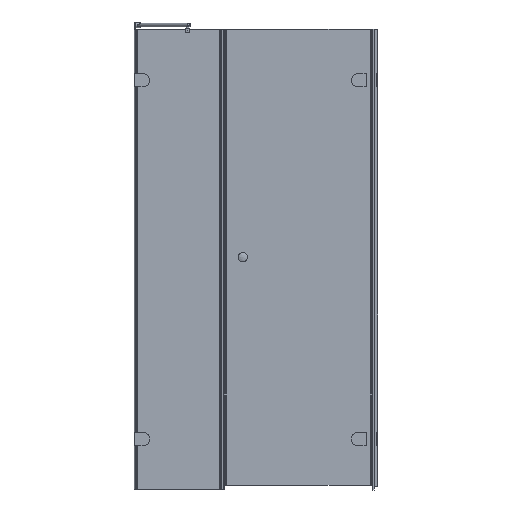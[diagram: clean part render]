
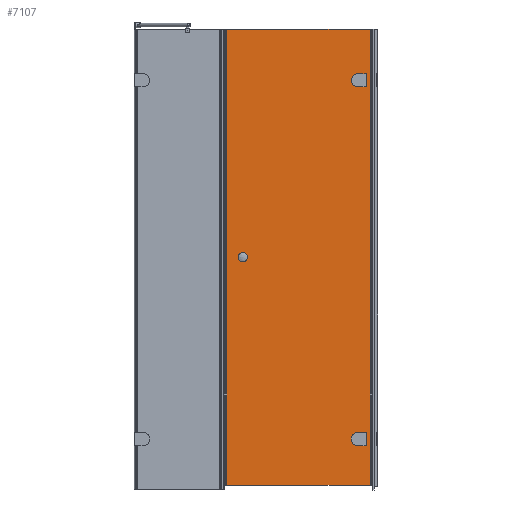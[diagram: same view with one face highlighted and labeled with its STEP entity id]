
A CAD part, front view. The second image highlights one B-rep face of the part: STEP entity #7107.
In plain terms, the highlighted planar face has unit normal (0, -1, 0).
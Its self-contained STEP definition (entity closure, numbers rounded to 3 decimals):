
#40=LINE($,#9793,#703);
#44=LINE($,#9801,#707);
#48=LINE($,#9812,#711);
#190=LINE($,#10177,#853);
#194=LINE($,#10185,#857);
#198=LINE($,#10196,#861);
#371=LINE($,#11090,#1034);
#598=LINE($,#11716,#1261);
#618=LINE($,#11771,#1281);
#619=LINE($,#11772,#1282);
#703=VECTOR($,#7860,52.);
#707=VECTOR($,#7866,23.);
#711=VECTOR($,#7878,23.);
#853=VECTOR($,#8232,52.);
#857=VECTOR($,#8238,23.);
#861=VECTOR($,#8250,23.);
#1034=VECTOR($,#8801,590.7);
#1261=VECTOR($,#9408,1880.);
#1281=VECTOR($,#9472,590.7);
#1282=VECTOR($,#9473,1880.);
#1462=FACE_BOUND($,#2322,.T.);
#1463=FACE_BOUND($,#2323,.T.);
#1464=FACE_BOUND($,#2324,.T.);
#2322=EDGE_LOOP($,(#5780,#5781,#5782,#5783));
#2323=EDGE_LOOP($,(#5784,#5785,#5786,#5787));
#2324=EDGE_LOOP($,(#5788,#5789,#5790,#5791));
#2419=CIRCLE($,#7202,26.);
#2455=CIRCLE($,#7313,26.);
#2689=VERTEX_POINT($,#9791);
#2690=VERTEX_POINT($,#9792);
#2693=VERTEX_POINT($,#9800);
#2695=VERTEX_POINT($,#9806);
#2812=VERTEX_POINT($,#10175);
#2813=VERTEX_POINT($,#10176);
#2816=VERTEX_POINT($,#10184);
#2818=VERTEX_POINT($,#10190);
#3034=VERTEX_POINT($,#11087);
#3035=VERTEX_POINT($,#11089);
#3244=VERTEX_POINT($,#11714);
#3257=VERTEX_POINT($,#11770);
#3337=EDGE_CURVE($,#2689,#2690,#40,.T.);
#3341=EDGE_CURVE($,#2690,#2693,#44,.T.);
#3344=EDGE_CURVE($,#2693,#2695,#2419,.T.);
#3347=EDGE_CURVE($,#2695,#2689,#48,.T.);
#3523=EDGE_CURVE($,#2812,#2813,#190,.T.);
#3527=EDGE_CURVE($,#2813,#2816,#194,.T.);
#3530=EDGE_CURVE($,#2816,#2818,#2455,.T.);
#3533=EDGE_CURVE($,#2818,#2812,#198,.T.);
#3816=EDGE_CURVE($,#3034,#3035,#371,.T.);
#4127=EDGE_CURVE($,#3244,#3034,#598,.T.);
#4154=EDGE_CURVE($,#3244,#3257,#618,.T.);
#4155=EDGE_CURVE($,#3257,#3035,#619,.T.);
#5780=ORIENTED_EDGE($,*,*,#3337,.T.);
#5781=ORIENTED_EDGE($,*,*,#3341,.T.);
#5782=ORIENTED_EDGE($,*,*,#3344,.T.);
#5783=ORIENTED_EDGE($,*,*,#3347,.T.);
#5784=ORIENTED_EDGE($,*,*,#3523,.T.);
#5785=ORIENTED_EDGE($,*,*,#3527,.T.);
#5786=ORIENTED_EDGE($,*,*,#3530,.T.);
#5787=ORIENTED_EDGE($,*,*,#3533,.T.);
#5788=ORIENTED_EDGE($,*,*,#4127,.F.);
#5789=ORIENTED_EDGE($,*,*,#4154,.T.);
#5790=ORIENTED_EDGE($,*,*,#4155,.T.);
#5791=ORIENTED_EDGE($,*,*,#3816,.F.);
#6383=PLANE($,#7716);
#7107=ADVANCED_FACE($,(#1462,#1463,#1464),#6383,.T.);
#7202=AXIS2_PLACEMENT_3D($,#9807,#7871,#7872);
#7313=AXIS2_PLACEMENT_3D($,#10191,#8243,#8244);
#7716=AXIS2_PLACEMENT_3D($,#11769,#9470,#9471);
#7860=DIRECTION($,(0.,0.,-1.));
#7866=DIRECTION($,(-1.,0.,0.));
#7871=DIRECTION('center_axis',(0.,1.,0.));
#7872=DIRECTION('ref_axis',(0.,0.,
1.));
#7878=DIRECTION($,(1.,0.,0.));
#8232=DIRECTION($,(0.,0.,-1.));
#8238=DIRECTION($,(-1.,0.,0.));
#8243=DIRECTION('center_axis',(0.,1.,0.));
#8244=DIRECTION('ref_axis',(0.,0.,
1.));
#8250=DIRECTION($,(1.,0.,0.));
#8801=DIRECTION($,(1.,0.,0.));
#9408=DIRECTION($,(0.,0.,1.));
#9470=DIRECTION('center_axis',(0.,-1.,0.));
#9471=DIRECTION('ref_axis',(1.,0.,0.));
#9472=DIRECTION($,(1.,0.,0.));
#9473=DIRECTION($,(0.,0.,1.));
#9791=CARTESIAN_POINT('',(1224.805,-44.044,1201.944));
#9792=CARTESIAN_POINT('',(1224.805,-44.044,1149.944));
#9793=CARTESIAN_POINT($,(1224.805,-44.044,327.944));
#9800=CARTESIAN_POINT('',(1201.805,-44.044,1149.944));
#9801=CARTESIAN_POINT($,(929.555,-44.044,1149.944));
#9806=CARTESIAN_POINT('',(1201.805,-44.044,1201.944));
#9807=CARTESIAN_POINT('Origin',(1201.805,-44.044,1175.944));
#9812=CARTESIAN_POINT($,(941.055,-44.044,1201.944));
#10175=CARTESIAN_POINT('',(1224.805,-44.044,-278.056));
#10176=CARTESIAN_POINT('',(1224.805,-44.044,-330.056));
#10177=CARTESIAN_POINT($,(1224.805,-44.044,-412.056));
#10184=CARTESIAN_POINT('',(1201.805,-44.044,-330.056));
#10185=CARTESIAN_POINT($,(929.555,-44.044,-330.056));
#10190=CARTESIAN_POINT('',(1201.805,-44.044,-278.056));
#10191=CARTESIAN_POINT('Origin',(1201.805,-44.044,-304.056));
#10196=CARTESIAN_POINT($,(941.055,-44.044,-278.056));
#11087=CARTESIAN_POINT('',(661.905,-44.044,1385.944));
#11089=CARTESIAN_POINT('',(1252.605,-44.044,1385.944));
#11090=CARTESIAN_POINT($,(657.305,-44.044,1385.944));
#11714=CARTESIAN_POINT('',(661.905,-44.044,-494.056));
#11716=CARTESIAN_POINT($,(661.905,-44.044,-494.056));
#11769=CARTESIAN_POINT('Origin',(657.305,-44.044,-494.056));
#11770=CARTESIAN_POINT('',(1252.605,-44.044,-494.056));
#11771=CARTESIAN_POINT($,(657.305,-44.044,-494.056));
#11772=CARTESIAN_POINT($,(1252.605,-44.044,-494.056));
